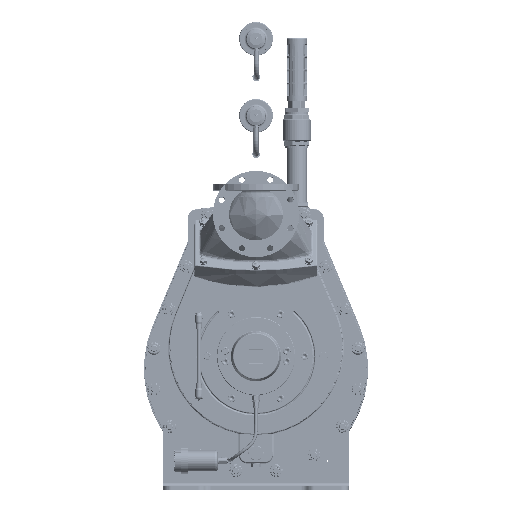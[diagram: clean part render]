
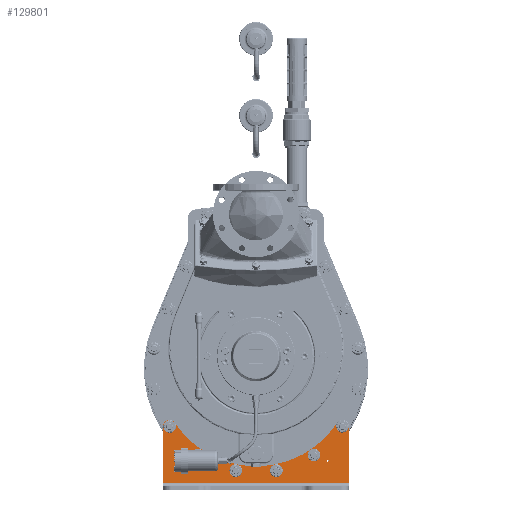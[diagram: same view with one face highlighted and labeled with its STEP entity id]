
A CAD part, top view. The second image highlights one B-rep face of the part: STEP entity #129801.
In plain terms, the highlighted planar face has unit normal (0, 0, 1) as drawn and (1, 0, 0) by its records, which use the part's own axes.
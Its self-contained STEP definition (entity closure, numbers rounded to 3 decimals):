
#16163=FACE_BOUND('',#27361,.T.);
#16164=FACE_BOUND('',#27362,.T.);
#16165=FACE_BOUND('',#27363,.T.);
#16166=FACE_BOUND('',#27364,.T.);
#16167=FACE_BOUND('',#27365,.T.);
#16168=FACE_BOUND('',#27366,.T.);
#16169=FACE_BOUND('',#27367,.T.);
#16170=FACE_BOUND('',#27368,.T.);
#17044=PLANE('',#139103);
#19682=FACE_OUTER_BOUND('',#27360,.T.);
#27360=EDGE_LOOP('',(#88567,#88568,#88569,#88570,#88571,#88572,#88573,#88574,
#88575,#88576));
#27361=EDGE_LOOP('',(#88577));
#27362=EDGE_LOOP('',(#88578));
#27363=EDGE_LOOP('',(#88579));
#27364=EDGE_LOOP('',(#88580));
#27365=EDGE_LOOP('',(#88581));
#27366=EDGE_LOOP('',(#88582));
#27367=EDGE_LOOP('',(#88583));
#27368=EDGE_LOOP('',(#88584));
#35918=LINE('',#179716,#43727);
#35920=LINE('',#179722,#43729);
#35921=LINE('',#179726,#43730);
#35922=LINE('',#179734,#43731);
#35923=LINE('',#179737,#43732);
#43727=VECTOR('',#150040,10.);
#43729=VECTOR('',#150046,10.);
#43730=VECTOR('',#150049,10.);
#43731=VECTOR('',#150056,10.);
#43732=VECTOR('',#150059,10.);
#51538=CIRCLE('',#139104,15.);
#51539=CIRCLE('',#139105,15.);
#51540=CIRCLE('',#139106,231.);
#51541=CIRCLE('',#139107,15.);
#51542=CIRCLE('',#139108,15.);
#51543=CIRCLE('',#139109,2.067);
#51544=CIRCLE('',#139110,2.067);
#51545=CIRCLE('',#139111,9.);
#51546=CIRCLE('',#139112,9.);
#51547=CIRCLE('',#139113,9.);
#51548=CIRCLE('',#139114,9.);
#51549=CIRCLE('',#139115,9.);
#51550=CIRCLE('',#139116,9.);
#56279=VERTEX_POINT('',#179713);
#56280=VERTEX_POINT('',#179715);
#56282=VERTEX_POINT('',#179721);
#56283=VERTEX_POINT('',#179723);
#56284=VERTEX_POINT('',#179725);
#56285=VERTEX_POINT('',#179727);
#56286=VERTEX_POINT('',#179729);
#56287=VERTEX_POINT('',#179731);
#56288=VERTEX_POINT('',#179733);
#56289=VERTEX_POINT('',#179735);
#56290=VERTEX_POINT('',#179738);
#56291=VERTEX_POINT('',#179740);
#56292=VERTEX_POINT('',#179742);
#56293=VERTEX_POINT('',#179744);
#56294=VERTEX_POINT('',#179746);
#56295=VERTEX_POINT('',#179748);
#56296=VERTEX_POINT('',#179750);
#56297=VERTEX_POINT('',#179752);
#68892=EDGE_CURVE('',#56279,#56280,#35918,.T.);
#68895=EDGE_CURVE('',#56282,#56279,#35920,.T.);
#68896=EDGE_CURVE('',#56283,#56282,#51538,.T.);
#68897=EDGE_CURVE('',#56284,#56283,#35921,.T.);
#68898=EDGE_CURVE('',#56285,#56284,#51539,.T.);
#68899=EDGE_CURVE('',#56285,#56286,#51540,.T.);
#68900=EDGE_CURVE('',#56287,#56286,#51541,.T.);
#68901=EDGE_CURVE('',#56288,#56287,#35922,.T.);
#68902=EDGE_CURVE('',#56289,#56288,#51542,.T.);
#68903=EDGE_CURVE('',#56280,#56289,#35923,.T.);
#68904=EDGE_CURVE('',#56290,#56290,#51543,.T.);
#68905=EDGE_CURVE('',#56291,#56291,#51544,.T.);
#68906=EDGE_CURVE('',#56292,#56292,#51545,.T.);
#68907=EDGE_CURVE('',#56293,#56293,#51546,.T.);
#68908=EDGE_CURVE('',#56294,#56294,#51547,.T.);
#68909=EDGE_CURVE('',#56295,#56295,#51548,.T.);
#68910=EDGE_CURVE('',#56296,#56296,#51549,.T.);
#68911=EDGE_CURVE('',#56297,#56297,#51550,.T.);
#88567=ORIENTED_EDGE('',*,*,#68892,.F.);
#88568=ORIENTED_EDGE('',*,*,#68895,.F.);
#88569=ORIENTED_EDGE('',*,*,#68896,.F.);
#88570=ORIENTED_EDGE('',*,*,#68897,.F.);
#88571=ORIENTED_EDGE('',*,*,#68898,.F.);
#88572=ORIENTED_EDGE('',*,*,#68899,.T.);
#88573=ORIENTED_EDGE('',*,*,#68900,.F.);
#88574=ORIENTED_EDGE('',*,*,#68901,.F.);
#88575=ORIENTED_EDGE('',*,*,#68902,.F.);
#88576=ORIENTED_EDGE('',*,*,#68903,.F.);
#88577=ORIENTED_EDGE('',*,*,#68904,.T.);
#88578=ORIENTED_EDGE('',*,*,#68905,.T.);
#88579=ORIENTED_EDGE('',*,*,#68906,.T.);
#88580=ORIENTED_EDGE('',*,*,#68907,.T.);
#88581=ORIENTED_EDGE('',*,*,#68908,.T.);
#88582=ORIENTED_EDGE('',*,*,#68909,.T.);
#88583=ORIENTED_EDGE('',*,*,#68910,.T.);
#88584=ORIENTED_EDGE('',*,*,#68911,.T.);
#129801=ADVANCED_FACE('',(#19682,#16163,#16164,#16165,#16166,#16167,#16168,
#16169,#16170),#17044,.T.);
#139103=AXIS2_PLACEMENT_3D('',#179720,#150044,#150045);
#139104=AXIS2_PLACEMENT_3D('',#179724,#150047,#150048);
#139105=AXIS2_PLACEMENT_3D('',#179728,#150050,#150051);
#139106=AXIS2_PLACEMENT_3D('',#179730,#150052,#150053);
#139107=AXIS2_PLACEMENT_3D('',#179732,#150054,#150055);
#139108=AXIS2_PLACEMENT_3D('',#179736,#150057,#150058);
#139109=AXIS2_PLACEMENT_3D('',#179739,#150060,#150061);
#139110=AXIS2_PLACEMENT_3D('',#179741,#150062,#150063);
#139111=AXIS2_PLACEMENT_3D('',#179743,#150064,#150065);
#139112=AXIS2_PLACEMENT_3D('',#179745,#150066,#150067);
#139113=AXIS2_PLACEMENT_3D('',#179747,#150068,#150069);
#139114=AXIS2_PLACEMENT_3D('',#179749,#150070,#150071);
#139115=AXIS2_PLACEMENT_3D('',#179751,#150072,#150073);
#139116=AXIS2_PLACEMENT_3D('',#179753,#150074,#150075);
#150040=DIRECTION('',(0.,0.,1.));
#150044=DIRECTION('center_axis',(1.,0.,0.));
#150045=DIRECTION('ref_axis',(0.,0.,-1.));
#150046=DIRECTION('',(0.,-1.,0.));
#150047=DIRECTION('center_axis',(-1.,0.,0.));
#150048=DIRECTION('ref_axis',(0.,0.707,-0.707));
#150049=DIRECTION('',(0.,0.,-1.));
#150050=DIRECTION('center_axis',(-1.,0.,0.));
#150051=DIRECTION('ref_axis',(0.,0.881,0.473));
#150052=DIRECTION('center_axis',(-1.,0.,0.));
#150053=DIRECTION('ref_axis',(0.,0.,-1.));
#150054=DIRECTION('center_axis',(-1.,0.,0.));
#150055=DIRECTION('ref_axis',(0.,0.881,-0.473));
#150056=DIRECTION('',(0.,0.,-1.));
#150057=DIRECTION('center_axis',(-1.,0.,0.));
#150058=DIRECTION('ref_axis',(0.,0.707,0.707));
#150059=DIRECTION('',(0.,1.,0.));
#150060=DIRECTION('center_axis',(-1.,0.,0.));
#150061=DIRECTION('ref_axis',(0.,0.,
-1.));
#150062=DIRECTION('center_axis',(-1.,0.,0.));
#150063=DIRECTION('ref_axis',(0.,0.,
-1.));
#150064=DIRECTION('center_axis',(-1.,0.,0.));
#150065=DIRECTION('ref_axis',(0.,0.,-1.));
#150066=DIRECTION('center_axis',(-1.,0.,0.));
#150067=DIRECTION('ref_axis',(0.,0.,-1.));
#150068=DIRECTION('center_axis',(-1.,0.,0.));
#150069=DIRECTION('ref_axis',(0.,0.,-1.));
#150070=DIRECTION('center_axis',(-1.,0.,0.));
#150071=DIRECTION('ref_axis',(0.,0.,-1.));
#150072=DIRECTION('center_axis',(-1.,0.,0.));
#150073=DIRECTION('ref_axis',(0.,0.,-1.));
#150074=DIRECTION('center_axis',(-1.,0.,0.));
#150075=DIRECTION('ref_axis',(0.,0.,-1.));
#179713=CARTESIAN_POINT('',(8.,16.,-220.));
#179715=CARTESIAN_POINT('',(8.,16.,220.));
#179716=CARTESIAN_POINT('',(8.,16.,0.));
#179720=CARTESIAN_POINT('Origin',(8.,58.,0.));
#179721=CARTESIAN_POINT('',(8.,150.,-220.));
#179722=CARTESIAN_POINT('',(8.,0.,-220.));
#179723=CARTESIAN_POINT('',(8.,165.,-205.));
#179724=CARTESIAN_POINT('Origin',(8.,150.,-205.));
#179725=CARTESIAN_POINT('',(8.,165.,-204.988));
#179726=CARTESIAN_POINT('',(8.,165.,-220.));
#179727=CARTESIAN_POINT('',(8.,158.293,-192.489));
#179728=CARTESIAN_POINT('Origin',(8.,150.,-204.988));
#179729=CARTESIAN_POINT('',(8.,158.293,192.489));
#179730=CARTESIAN_POINT('Origin',(8.,286.,0.));
#179731=CARTESIAN_POINT('',(8.,165.,204.988));
#179732=CARTESIAN_POINT('Origin',(8.,150.,204.988));
#179733=CARTESIAN_POINT('',(8.,165.,205.));
#179734=CARTESIAN_POINT('',(8.,165.,-220.));
#179735=CARTESIAN_POINT('',(8.,150.,220.));
#179736=CARTESIAN_POINT('Origin',(8.,150.,205.));
#179737=CARTESIAN_POINT('',(8.,165.,220.));
#179738=CARTESIAN_POINT('',(8.,68.,-167.933));
#179739=CARTESIAN_POINT('Origin',(8.,68.,-170.));
#179740=CARTESIAN_POINT('',(8.,68.,172.067));
#179741=CARTESIAN_POINT('Origin',(8.,68.,170.));
#179742=CARTESIAN_POINT('',(8.,149.33,213.542));
#179743=CARTESIAN_POINT('Origin',(8.,149.33,204.542));
#179744=CARTESIAN_POINT('',(8.,44.727,56.992));
#179745=CARTESIAN_POINT('Origin',(8.,44.727,47.992));
#179746=CARTESIAN_POINT('',(8.,81.458,-127.67));
#179747=CARTESIAN_POINT('Origin',(8.,81.458,-136.67));
#179748=CARTESIAN_POINT('',(8.,149.33,-195.542));
#179749=CARTESIAN_POINT('Origin',(8.,149.33,-204.542));
#179750=CARTESIAN_POINT('',(8.,44.727,-38.992));
#179751=CARTESIAN_POINT('Origin',(8.,44.727,-47.992));
#179752=CARTESIAN_POINT('',(8.,81.458,145.67));
#179753=CARTESIAN_POINT('Origin',(8.,81.458,136.67));
